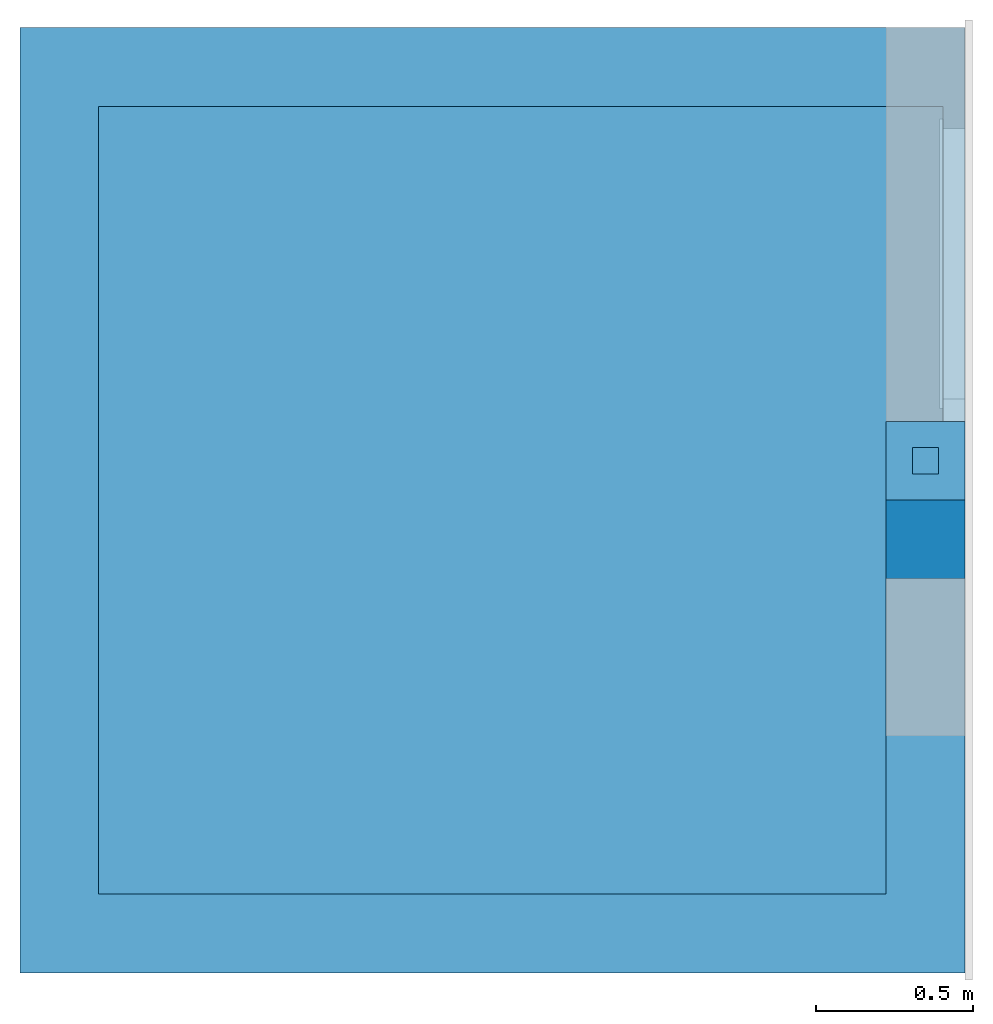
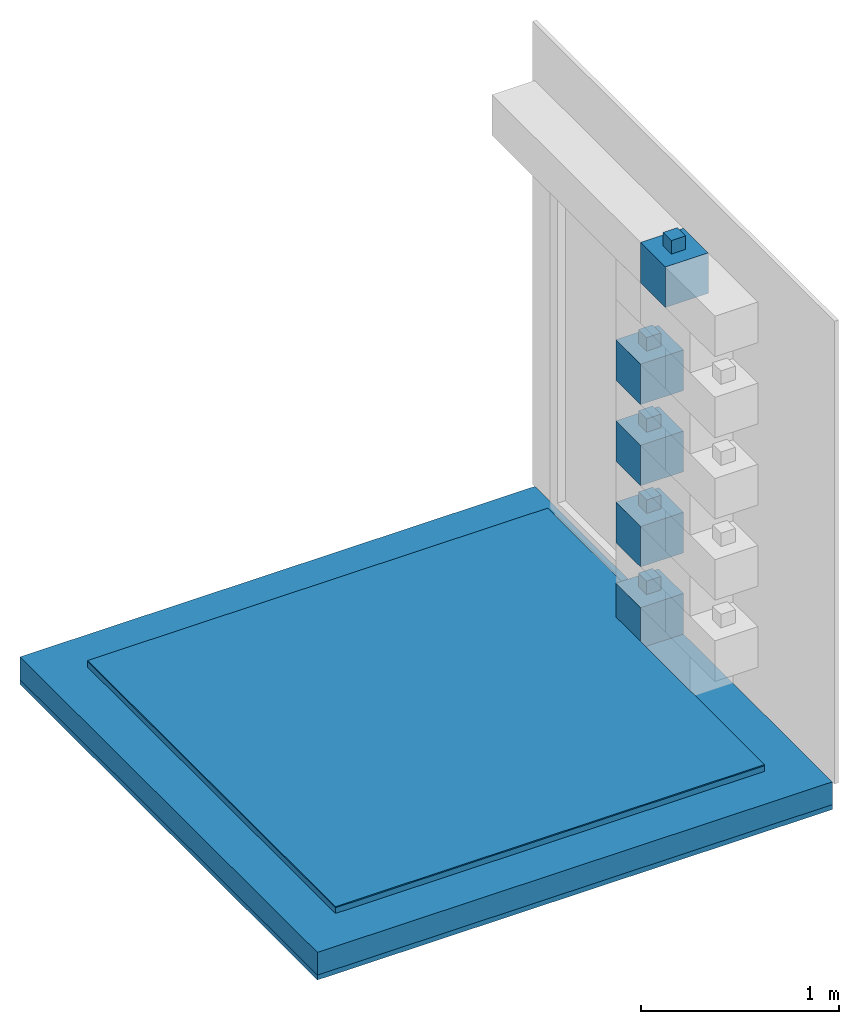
# One storey, part 5 of 8: 5 walls, 4 building element parts, 2 elements without a shape of their own.
"""IFC4 building model written with IfcOpenShell, lengths in centimetres."""

from ifc_helpers import new_model, entity, si_unit, converted_unit, direction, frame, origin, place, context, subcontext, project, spatial, indexed_curve, outline, extrude, material, type_object, element, aggregate, save


model = new_model("IFC4")

# Units and contexts
model_context = context("Model", 3, precision=0.001, world=origin(), true_north=direction((0.0, 1.0)))
body_context = subcontext(model_context, "Body", "Model", "MODEL_VIEW")
ifc_project = project(units=[si_unit("LENGTHUNIT", "METRE", prefix="CENTI"), si_unit("AREAUNIT", "SQUARE_METRE"), si_unit("VOLUMEUNIT", "CUBIC_METRE"), converted_unit("PLANEANGLEUNIT", "DEGREE", entity("IfcPlaneAngleMeasure", 0.017453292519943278), si_unit("PLANEANGLEUNIT", "RADIAN"), dimensions=[0, 0, 0, 0, 0, 0, 0])], contexts=[model_context])

# Site, building, storey
site_placement = place(None, origin())
site = spatial("IfcSite", under=ifc_project, at=site_placement, Name="Default", CompositionType="ELEMENT")
building_placement = place(site_placement, origin())
building = spatial("IfcBuilding", under=site, at=building_placement, CompositionType="ELEMENT")
storey_placement = place(building_placement, frame((0.0, 0.0, -4.0)))
storey = spatial("IfcBuildingStorey", under=building, at=storey_placement, Name="L00__ABOVE Slab", CompositionType="ELEMENT", Elevation=-4.000000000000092)

# Walls
ifc_material_1 = material(Name="Miscellaneous__Timber Block__Triqbriq, X", Category="Miscellaneous")
wall_type = type_object("IfcWallType", Name="Columns : wll_s__TIMBER BLOCK__Triqbriq, Half Width__wp : WS25", PredefinedType="SOLIDWALL", material=ifc_material_1)
wall_1_placement = place(storey_placement, frame((3156.828914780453, 2278.520030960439, 150.0)))
element("IfcWall", 1, at=wall_1_placement, inside=storey, type_object=wall_type, material=ifc_material_1, Name="Columns : wll_s__TIMBER BLOCK__Triqbriq, Half Width__wp : WS25", PredefinedType="SOLIDWALL", context=body_context, shape_type="SweptSolid", body=[
    extrude(outline(indexed_curve([(-4.166666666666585, -4.166666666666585), (4.166666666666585, -4.166666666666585), (4.166666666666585, 4.166666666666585), (-4.166666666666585, 4.166666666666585), (-4.166666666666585, -4.166666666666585)], self_intersect=False)), frame((12.500000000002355, 12.50000000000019, 16.66666666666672), z_axis=(0.0, 0.0, 1.0), x_axis=(0.0, 1.0, 0.0)), (0.0, 0.0, 1.0), 16.66666666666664),
    extrude(outline(indexed_curve([(-4.166666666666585, -4.166666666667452), (4.166666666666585, -4.166666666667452), (4.166666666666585, 4.166666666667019), (-4.166666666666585, 4.166666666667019), (-4.166666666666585, -4.166666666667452)], self_intersect=False)), frame((4.166666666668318, 20.833333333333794, 8.333333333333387), z_axis=(0.0, 0.0, 1.0), x_axis=(0.0, 1.0, 0.0)), (0.0, 0.0, 1.0), 8.333333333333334),
    extrude(outline(indexed_curve([(-4.166666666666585, -4.166666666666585), (4.166666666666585, -4.166666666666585), (4.166666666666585, 4.166666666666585), (-4.166666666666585, 4.166666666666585), (-4.166666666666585, -4.166666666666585)], self_intersect=False)), frame((20.83333333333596, 20.833333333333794, 8.333333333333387), z_axis=(0.0, 0.0, 1.0), x_axis=(0.0, 1.0, 0.0)), (0.0, 0.0, 1.0), 8.333333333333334),
    extrude(outline(indexed_curve([(-4.166666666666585, -4.166666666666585), (4.166666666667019, -4.166666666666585), (4.166666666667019, 4.166666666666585), (-4.166666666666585, 4.166666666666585), (-4.166666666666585, -4.166666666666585)], self_intersect=False)), frame((20.83333333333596, 4.166666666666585, 8.333333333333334), z_axis=(0.0, 0.0, 1.0), x_axis=(0.0, 1.0, 0.0)), (0.0, 0.0, 1.0), 8.333333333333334),
    extrude(outline(indexed_curve([(-4.166666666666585, -4.166666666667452), (4.166666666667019, -4.166666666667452), (4.166666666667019, 4.166666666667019), (-4.166666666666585, 4.166666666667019), (-4.166666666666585, -4.166666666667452)], self_intersect=False)), frame((4.166666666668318, 4.166666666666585, 8.333333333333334), z_axis=(0.0, 0.0, 1.0), x_axis=(0.0, 1.0, 0.0)), (0.0, 0.0, 1.0), 8.333333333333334),
    extrude(outline(indexed_curve([(-12.50000000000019, -4.166666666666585), (12.50000000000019, -4.166666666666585), (12.50000000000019, 4.166666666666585), (-12.50000000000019, 4.166666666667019), (-12.50000000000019, -4.166666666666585)], self_intersect=False)), frame((12.500000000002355, 12.50000000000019, 8.333333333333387), z_axis=(0.0, 0.0, 1.0), x_axis=(0.0, 1.0, 0.0)), (0.0, 0.0, 1.0), 8.333333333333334),
    extrude(outline(indexed_curve([(-4.166666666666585, -12.50000000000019), (4.166666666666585, -12.50000000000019), (4.166666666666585, 12.500000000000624), (-4.166666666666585, 12.500000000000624), (-4.166666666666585, -12.50000000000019)], self_intersect=False)), frame((12.500000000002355, 4.166666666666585, 0.0), z_axis=(0.0, 0.0, 1.0), x_axis=(0.0, 1.0, 0.0)), (0.0, 0.0, 1.0), 8.333333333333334),
    extrude(outline(indexed_curve([(-4.166666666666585, -12.50000000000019), (4.166666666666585, -12.50000000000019), (4.166666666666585, 12.500000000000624), (-4.166666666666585, 12.500000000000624), (-4.166666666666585, -12.50000000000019)], self_intersect=False)), frame((12.500000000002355, 20.83333333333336, 0.0), z_axis=(0.0, 0.0, 1.0), x_axis=(0.0, 1.0, 0.0)), (0.0, 0.0, 1.0), 8.333333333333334),
    extrude(outline(indexed_curve([(-4.166666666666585, -4.166666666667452), (4.166666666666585, -4.166666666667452), (4.166666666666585, 4.166666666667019), (-4.166666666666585, 4.166666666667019), (-4.166666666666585, -4.166666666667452)], self_intersect=False)), frame((4.166666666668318, 12.499999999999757, 0.0), z_axis=(0.0, 0.0, 1.0), x_axis=(0.0, 1.0, 0.0)), (0.0, 0.0, 1.0), 24.999999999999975),
    extrude(outline(indexed_curve([(-4.166666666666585, -4.166666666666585), (4.166666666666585, -4.166666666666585), (4.166666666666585, 4.166666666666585), (-4.166666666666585, 4.166666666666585), (-4.166666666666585, -4.166666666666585)], self_intersect=False)), frame((20.83333333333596, 12.499999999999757, 0.0), z_axis=(0.0, 0.0, 1.0), x_axis=(0.0, 1.0, 0.0)), (0.0, 0.0, 1.0), 24.999999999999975),
    extrude(outline(indexed_curve([(-4.166666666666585, -12.50000000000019), (4.166666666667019, -12.50000000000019), (4.166666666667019, 12.500000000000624), (-4.166666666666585, 12.500000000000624), (-4.166666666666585, -12.50000000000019)], self_intersect=False)), frame((12.500000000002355, 4.166666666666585, 16.66666666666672), z_axis=(0.0, 0.0, 1.0), x_axis=(0.0, 1.0, 0.0)), (0.0, 0.0, 1.0), 8.333333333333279),
    extrude(outline(indexed_curve([(-4.166666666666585, -12.50000000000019), (4.166666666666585, -12.50000000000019), (4.166666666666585, 12.500000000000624), (-4.166666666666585, 12.500000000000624), (-4.166666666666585, -12.50000000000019)], self_intersect=False)), frame((12.500000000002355, 20.833333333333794, 16.666666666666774), z_axis=(0.0, 0.0, 1.0), x_axis=(0.0, 1.0, 0.0)), (0.0, 0.0, 1.0), 8.333333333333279),
])
wall_2_placement = place(storey_placement, frame((3156.828914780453, 2278.520030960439, 100.0)))
element("IfcWall", 2, at=wall_2_placement, inside=storey, type_object=wall_type, material=ifc_material_1, Name="Columns : wll_s__TIMBER BLOCK__Triqbriq, Half Width__wp : WS25", PredefinedType="SOLIDWALL", context=body_context, shape_type="SweptSolid", body=[
    extrude(outline(indexed_curve([(-4.166666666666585, -4.166666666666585), (4.166666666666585, -4.166666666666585), (4.166666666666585, 4.166666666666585), (-4.166666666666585, 4.166666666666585), (-4.166666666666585, -4.166666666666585)], self_intersect=False)), frame((12.500000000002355, 12.50000000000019, 16.66666666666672), z_axis=(0.0, 0.0, 1.0), x_axis=(0.0, 1.0, 0.0)), (0.0, 0.0, 1.0), 16.666666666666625),
    extrude(outline(indexed_curve([(-4.166666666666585, -4.166666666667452), (4.166666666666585, -4.166666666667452), (4.166666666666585, 4.166666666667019), (-4.166666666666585, 4.166666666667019), (-4.166666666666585, -4.166666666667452)], self_intersect=False)), frame((4.166666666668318, 20.833333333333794, 8.333333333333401), z_axis=(0.0, 0.0, 1.0), x_axis=(0.0, 1.0, 0.0)), (0.0, 0.0, 1.0), 8.333333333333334),
    extrude(outline(indexed_curve([(-4.166666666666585, -4.166666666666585), (4.166666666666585, -4.166666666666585), (4.166666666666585, 4.166666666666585), (-4.166666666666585, 4.166666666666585), (-4.166666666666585, -4.166666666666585)], self_intersect=False)), frame((20.83333333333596, 20.833333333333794, 8.333333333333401), z_axis=(0.0, 0.0, 1.0), x_axis=(0.0, 1.0, 0.0)), (0.0, 0.0, 1.0), 8.333333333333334),
    extrude(outline(indexed_curve([(-4.166666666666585, -4.166666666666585), (4.166666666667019, -4.166666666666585), (4.166666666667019, 4.166666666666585), (-4.166666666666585, 4.166666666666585), (-4.166666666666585, -4.166666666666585)], self_intersect=False)), frame((20.83333333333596, 4.166666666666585, 8.333333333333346), z_axis=(0.0, 0.0, 1.0), x_axis=(0.0, 1.0, 0.0)), (0.0, 0.0, 1.0), 8.333333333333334),
    extrude(outline(indexed_curve([(-4.166666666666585, -4.166666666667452), (4.166666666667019, -4.166666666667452), (4.166666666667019, 4.166666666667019), (-4.166666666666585, 4.166666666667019), (-4.166666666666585, -4.166666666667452)], self_intersect=False)), frame((4.166666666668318, 4.166666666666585, 8.333333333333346), z_axis=(0.0, 0.0, 1.0), x_axis=(0.0, 1.0, 0.0)), (0.0, 0.0, 1.0), 8.333333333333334),
    extrude(outline(indexed_curve([(-12.50000000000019, -4.166666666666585), (12.50000000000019, -4.166666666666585), (12.50000000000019, 4.166666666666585), (-12.50000000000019, 4.166666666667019), (-12.50000000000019, -4.166666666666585)], self_intersect=False)), frame((12.500000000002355, 12.50000000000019, 8.333333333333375), z_axis=(0.0, 0.0, 1.0), x_axis=(0.0, 1.0, 0.0)), (0.0, 0.0, 1.0), 8.333333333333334),
    extrude(outline(indexed_curve([(-4.166666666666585, -12.50000000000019), (4.166666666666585, -12.50000000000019), (4.166666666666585, 12.500000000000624), (-4.166666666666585, 12.500000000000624), (-4.166666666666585, -12.50000000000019)], self_intersect=False)), frame((12.500000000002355, 4.166666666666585, 0.0), z_axis=(0.0, 0.0, 1.0), x_axis=(0.0, 1.0, 0.0)), (0.0, 0.0, 1.0), 8.333333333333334),
    extrude(outline(indexed_curve([(-4.166666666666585, -12.50000000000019), (4.166666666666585, -12.50000000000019), (4.166666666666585, 12.500000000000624), (-4.166666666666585, 12.500000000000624), (-4.166666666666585, -12.50000000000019)], self_intersect=False)), frame((12.500000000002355, 20.83333333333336, 0.0), z_axis=(0.0, 0.0, 1.0), x_axis=(0.0, 1.0, 0.0)), (0.0, 0.0, 1.0), 8.333333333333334),
    extrude(outline(indexed_curve([(-4.166666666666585, -4.166666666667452), (4.166666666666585, -4.166666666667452), (4.166666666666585, 4.166666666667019), (-4.166666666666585, 4.166666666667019), (-4.166666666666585, -4.166666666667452)], self_intersect=False)), frame((4.166666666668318, 12.499999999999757, 0.0), z_axis=(0.0, 0.0, 1.0), x_axis=(0.0, 1.0, 0.0)), (0.0, 0.0, 1.0), 24.999999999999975),
    extrude(outline(indexed_curve([(-4.166666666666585, -4.166666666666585), (4.166666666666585, -4.166666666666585), (4.166666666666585, 4.166666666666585), (-4.166666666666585, 4.166666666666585), (-4.166666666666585, -4.166666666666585)], self_intersect=False)), frame((20.83333333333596, 12.499999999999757, 0.0), z_axis=(0.0, 0.0, 1.0), x_axis=(0.0, 1.0, 0.0)), (0.0, 0.0, 1.0), 24.999999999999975),
    extrude(outline(indexed_curve([(-4.166666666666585, -12.50000000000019), (4.166666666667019, -12.50000000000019), (4.166666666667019, 12.500000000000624), (-4.166666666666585, 12.500000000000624), (-4.166666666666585, -12.50000000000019)], self_intersect=False)), frame((12.500000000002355, 4.166666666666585, 16.666666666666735), z_axis=(0.0, 0.0, 1.0), x_axis=(0.0, 1.0, 0.0)), (0.0, 0.0, 1.0), 8.333333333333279),
    extrude(outline(indexed_curve([(-4.166666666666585, -12.50000000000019), (4.166666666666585, -12.50000000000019), (4.166666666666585, 12.500000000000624), (-4.166666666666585, 12.500000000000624), (-4.166666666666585, -12.50000000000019)], self_intersect=False)), frame((12.500000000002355, 20.833333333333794, 16.66666666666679), z_axis=(0.0, 0.0, 1.0), x_axis=(0.0, 1.0, 0.0)), (0.0, 0.0, 1.0), 8.333333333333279),
])
wall_3_placement = place(storey_placement, frame((3156.8289147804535, 2278.520030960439, 50.0)))
element("IfcWall", 3, at=wall_3_placement, inside=storey, type_object=wall_type, material=ifc_material_1, Name="Columns : wll_s__TIMBER BLOCK__Triqbriq, Half Width__wp : WS25", PredefinedType="SOLIDWALL", context=body_context, shape_type="SweptSolid", body=[
    extrude(outline(indexed_curve([(-4.166666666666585, -4.166666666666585), (4.166666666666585, -4.166666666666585), (4.166666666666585, 4.166666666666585), (-4.166666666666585, 4.166666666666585), (-4.166666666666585, -4.166666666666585)], self_intersect=False)), frame((12.500000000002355, 12.50000000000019, 16.666666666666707), z_axis=(0.0, 0.0, 1.0), x_axis=(0.0, 1.0, 0.0)), (0.0, 0.0, 1.0), 16.66666666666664),
    extrude(outline(indexed_curve([(-4.166666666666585, -4.166666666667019), (4.166666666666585, -4.166666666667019), (4.166666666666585, 4.166666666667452), (-4.166666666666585, 4.166666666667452), (-4.166666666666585, -4.166666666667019)], self_intersect=False)), frame((4.1666666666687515, 20.833333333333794, 8.333333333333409), z_axis=(0.0, 0.0, 1.0), x_axis=(0.0, 1.0, 0.0)), (0.0, 0.0, 1.0), 8.333333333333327),
    extrude(outline(indexed_curve([(-4.166666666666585, -4.166666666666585), (4.166666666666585, -4.166666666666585), (4.166666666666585, 4.166666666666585), (-4.166666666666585, 4.166666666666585), (-4.166666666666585, -4.166666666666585)], self_intersect=False)), frame((20.83333333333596, 20.833333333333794, 8.333333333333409), z_axis=(0.0, 0.0, 1.0), x_axis=(0.0, 1.0, 0.0)), (0.0, 0.0, 1.0), 8.333333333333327),
    extrude(outline(indexed_curve([(-4.166666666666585, -4.166666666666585), (4.166666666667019, -4.166666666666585), (4.166666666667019, 4.166666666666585), (-4.166666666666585, 4.166666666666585), (-4.166666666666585, -4.166666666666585)], self_intersect=False)), frame((20.83333333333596, 4.166666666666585, 8.333333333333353), z_axis=(0.0, 0.0, 1.0), x_axis=(0.0, 1.0, 0.0)), (0.0, 0.0, 1.0), 8.333333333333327),
    extrude(outline(indexed_curve([(-4.166666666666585, -4.166666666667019), (4.166666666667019, -4.166666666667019), (4.166666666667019, 4.166666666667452), (-4.166666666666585, 4.166666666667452), (-4.166666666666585, -4.166666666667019)], self_intersect=False)), frame((4.1666666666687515, 4.166666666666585, 8.333333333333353), z_axis=(0.0, 0.0, 1.0), x_axis=(0.0, 1.0, 0.0)), (0.0, 0.0, 1.0), 8.333333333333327),
    extrude(outline(indexed_curve([(-12.50000000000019, -4.166666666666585), (12.50000000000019, -4.166666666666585), (12.50000000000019, 4.166666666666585), (-12.50000000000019, 4.166666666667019), (-12.50000000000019, -4.166666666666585)], self_intersect=False)), frame((12.500000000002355, 12.50000000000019, 8.333333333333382), z_axis=(0.0, 0.0, 1.0), x_axis=(0.0, 1.0, 0.0)), (0.0, 0.0, 1.0), 8.333333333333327),
    extrude(outline(indexed_curve([(-4.166666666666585, -12.50000000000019), (4.166666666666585, -12.50000000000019), (4.166666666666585, 12.500000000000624), (-4.166666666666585, 12.500000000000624), (-4.166666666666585, -12.50000000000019)], self_intersect=False)), frame((12.500000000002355, 4.166666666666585, 0.0), z_axis=(0.0, 0.0, 1.0), x_axis=(0.0, 1.0, 0.0)), (0.0, 0.0, 1.0), 8.333333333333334),
    extrude(outline(indexed_curve([(-4.166666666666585, -12.50000000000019), (4.166666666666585, -12.50000000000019), (4.166666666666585, 12.500000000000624), (-4.166666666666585, 12.500000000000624), (-4.166666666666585, -12.50000000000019)], self_intersect=False)), frame((12.500000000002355, 20.83333333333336, 0.0), z_axis=(0.0, 0.0, 1.0), x_axis=(0.0, 1.0, 0.0)), (0.0, 0.0, 1.0), 8.333333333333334),
    extrude(outline(indexed_curve([(-4.166666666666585, -4.166666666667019), (4.166666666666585, -4.166666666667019), (4.166666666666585, 4.166666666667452), (-4.166666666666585, 4.166666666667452), (-4.166666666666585, -4.166666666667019)], self_intersect=False)), frame((4.1666666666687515, 12.499999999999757, 0.0), z_axis=(0.0, 0.0, 1.0), x_axis=(0.0, 1.0, 0.0)), (0.0, 0.0, 1.0), 24.999999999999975),
    extrude(outline(indexed_curve([(-4.166666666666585, -4.166666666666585), (4.166666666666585, -4.166666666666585), (4.166666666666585, 4.166666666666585), (-4.166666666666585, 4.166666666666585), (-4.166666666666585, -4.166666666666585)], self_intersect=False)), frame((20.83333333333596, 12.499999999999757, 0.0), z_axis=(0.0, 0.0, 1.0), x_axis=(0.0, 1.0, 0.0)), (0.0, 0.0, 1.0), 24.999999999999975),
    extrude(outline(indexed_curve([(-4.166666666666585, -12.50000000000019), (4.166666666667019, -12.50000000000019), (4.166666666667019, 12.500000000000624), (-4.166666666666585, 12.500000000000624), (-4.166666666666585, -12.50000000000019)], self_intersect=False)), frame((12.500000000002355, 4.166666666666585, 16.666666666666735), z_axis=(0.0, 0.0, 1.0), x_axis=(0.0, 1.0, 0.0)), (0.0, 0.0, 1.0), 8.333333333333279),
    extrude(outline(indexed_curve([(-4.166666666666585, -12.50000000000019), (4.166666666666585, -12.50000000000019), (4.166666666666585, 12.500000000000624), (-4.166666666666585, 12.500000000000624), (-4.166666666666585, -12.50000000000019)], self_intersect=False)), frame((12.500000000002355, 20.833333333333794, 16.66666666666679), z_axis=(0.0, 0.0, 1.0), x_axis=(0.0, 1.0, 0.0)), (0.0, 0.0, 1.0), 8.333333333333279),
])
wall_4_placement = place(storey_placement, frame((3156.8289147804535, 2278.520030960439, 0.0)))
element("IfcWall", 4, at=wall_4_placement, inside=storey, type_object=wall_type, material=ifc_material_1, Name="Columns : wll_s__TIMBER BLOCK__Triqbriq, Half Width__wp : WS25", PredefinedType="SOLIDWALL", context=body_context, shape_type="SweptSolid", body=[
    extrude(outline(indexed_curve([(-4.166666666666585, -4.166666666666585), (4.166666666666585, -4.166666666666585), (4.166666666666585, 4.166666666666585), (-4.166666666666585, 4.166666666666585), (-4.166666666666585, -4.166666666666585)], self_intersect=False)), frame((12.500000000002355, 12.50000000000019, 16.666666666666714), z_axis=(0.0, 0.0, 1.0), x_axis=(0.0, 1.0, 0.0)), (0.0, 0.0, 1.0), 16.666666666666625),
    extrude(outline(indexed_curve([(-4.166666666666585, -4.166666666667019), (4.166666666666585, -4.166666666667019), (4.166666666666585, 4.166666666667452), (-4.166666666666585, 4.166666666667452), (-4.166666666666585, -4.166666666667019)], self_intersect=False)), frame((4.1666666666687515, 20.833333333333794, 8.333333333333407), z_axis=(0.0, 0.0, 1.0), x_axis=(0.0, 1.0, 0.0)), (0.0, 0.0, 1.0), 8.333333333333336),
    extrude(outline(indexed_curve([(-4.166666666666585, -4.166666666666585), (4.166666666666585, -4.166666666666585), (4.166666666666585, 4.166666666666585), (-4.166666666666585, 4.166666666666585), (-4.166666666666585, -4.166666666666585)], self_intersect=False)), frame((20.83333333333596, 20.833333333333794, 8.333333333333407), z_axis=(0.0, 0.0, 1.0), x_axis=(0.0, 1.0, 0.0)), (0.0, 0.0, 1.0), 8.333333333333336),
    extrude(outline(indexed_curve([(-4.166666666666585, -4.166666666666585), (4.166666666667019, -4.166666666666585), (4.166666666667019, 4.166666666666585), (-4.166666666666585, 4.166666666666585), (-4.166666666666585, -4.166666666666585)], self_intersect=False)), frame((20.83333333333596, 4.166666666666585, 8.333333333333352), z_axis=(0.0, 0.0, 1.0), x_axis=(0.0, 1.0, 0.0)), (0.0, 0.0, 1.0), 8.333333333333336),
    extrude(outline(indexed_curve([(-4.166666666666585, -4.166666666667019), (4.166666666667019, -4.166666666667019), (4.166666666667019, 4.166666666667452), (-4.166666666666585, 4.166666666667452), (-4.166666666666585, -4.166666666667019)], self_intersect=False)), frame((4.1666666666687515, 4.166666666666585, 8.333333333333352), z_axis=(0.0, 0.0, 1.0), x_axis=(0.0, 1.0, 0.0)), (0.0, 0.0, 1.0), 8.333333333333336),
    extrude(outline(indexed_curve([(-12.50000000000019, -4.166666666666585), (12.50000000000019, -4.166666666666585), (12.50000000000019, 4.166666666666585), (-12.50000000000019, 4.166666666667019), (-12.50000000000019, -4.166666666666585)], self_intersect=False)), frame((12.500000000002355, 12.50000000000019, 8.33333333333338), z_axis=(0.0, 0.0, 1.0), x_axis=(0.0, 1.0, 0.0)), (0.0, 0.0, 1.0), 8.333333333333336),
    extrude(outline(indexed_curve([(-4.166666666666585, -12.50000000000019), (4.166666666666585, -12.50000000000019), (4.166666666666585, 12.500000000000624), (-4.166666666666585, 12.500000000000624), (-4.166666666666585, -12.50000000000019)], self_intersect=False)), frame((12.500000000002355, 4.166666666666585, 0.0), z_axis=(0.0, 0.0, 1.0), x_axis=(0.0, 1.0, 0.0)), (0.0, 0.0, 1.0), 8.333333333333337),
    extrude(outline(indexed_curve([(-4.166666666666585, -12.50000000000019), (4.166666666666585, -12.50000000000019), (4.166666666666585, 12.500000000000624), (-4.166666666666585, 12.500000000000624), (-4.166666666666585, -12.50000000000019)], self_intersect=False)), frame((12.500000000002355, 20.83333333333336, 0.0), z_axis=(0.0, 0.0, 1.0), x_axis=(0.0, 1.0, 0.0)), (0.0, 0.0, 1.0), 8.333333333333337),
    extrude(outline(indexed_curve([(-4.166666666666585, -4.166666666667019), (4.166666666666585, -4.166666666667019), (4.166666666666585, 4.166666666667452), (-4.166666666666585, 4.166666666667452), (-4.166666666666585, -4.166666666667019)], self_intersect=False)), frame((4.1666666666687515, 12.499999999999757, 0.0), z_axis=(0.0, 0.0, 1.0), x_axis=(0.0, 1.0, 0.0)), (0.0, 0.0, 1.0), 24.99999999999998),
    extrude(outline(indexed_curve([(-4.166666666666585, -4.166666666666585), (4.166666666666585, -4.166666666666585), (4.166666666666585, 4.166666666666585), (-4.166666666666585, 4.166666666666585), (-4.166666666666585, -4.166666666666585)], self_intersect=False)), frame((20.83333333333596, 12.499999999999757, 0.0), z_axis=(0.0, 0.0, 1.0), x_axis=(0.0, 1.0, 0.0)), (0.0, 0.0, 1.0), 24.99999999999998),
    extrude(outline(indexed_curve([(-4.166666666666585, -12.50000000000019), (4.166666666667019, -12.50000000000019), (4.166666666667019, 12.500000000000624), (-4.166666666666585, 12.500000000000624), (-4.166666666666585, -12.50000000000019)], self_intersect=False)), frame((12.500000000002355, 4.166666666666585, 16.66666666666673), z_axis=(0.0, 0.0, 1.0), x_axis=(0.0, 1.0, 0.0)), (0.0, 0.0, 1.0), 8.333333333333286),
    extrude(outline(indexed_curve([(-4.166666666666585, -12.50000000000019), (4.166666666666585, -12.50000000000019), (4.166666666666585, 12.500000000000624), (-4.166666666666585, 12.500000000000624), (-4.166666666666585, -12.50000000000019)], self_intersect=False)), frame((12.500000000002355, 20.833333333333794, 16.66666666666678), z_axis=(0.0, 0.0, 1.0), x_axis=(0.0, 1.0, 0.0)), (0.0, 0.0, 1.0), 8.333333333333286),
])
wall_5_placement = place(storey_placement, frame((3156.8289147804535, 2253.5200309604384, 225.0)))
element("IfcWall", 5, at=wall_5_placement, inside=storey, type_object=wall_type, material=ifc_material_1, Name="Columns : wll_s__TIMBER BLOCK__Triqbriq, Half Width__wp : WS25", PredefinedType="SOLIDWALL", context=body_context, shape_type="SweptSolid", body=[
    extrude(outline(indexed_curve([(-4.166666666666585, -4.166666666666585), (4.166666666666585, -4.166666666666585), (4.166666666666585, 4.166666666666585), (-4.166666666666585, 4.166666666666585), (-4.166666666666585, -4.166666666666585)], self_intersect=False)), frame((12.500000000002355, 12.50000000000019, 16.666666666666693), z_axis=(0.0, 0.0, 1.0), x_axis=(0.0, 1.0, 0.0)), (0.0, 0.0, 1.0), 16.66666666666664),
    extrude(outline(indexed_curve([(-4.166666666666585, -4.166666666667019), (4.166666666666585, -4.166666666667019), (4.166666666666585, 4.166666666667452), (-4.166666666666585, 4.166666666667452), (-4.166666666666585, -4.166666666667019)], self_intersect=False)), frame((4.1666666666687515, 20.833333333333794, 8.333333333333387), z_axis=(0.0, 0.0, 1.0), x_axis=(0.0, 1.0, 0.0)), (0.0, 0.0, 1.0), 8.333333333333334),
    extrude(outline(indexed_curve([(-4.166666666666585, -4.166666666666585), (4.166666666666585, -4.166666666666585), (4.166666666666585, 4.166666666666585), (-4.166666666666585, 4.166666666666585), (-4.166666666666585, -4.166666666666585)], self_intersect=False)), frame((20.83333333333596, 20.833333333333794, 8.333333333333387), z_axis=(0.0, 0.0, 1.0), x_axis=(0.0, 1.0, 0.0)), (0.0, 0.0, 1.0), 8.333333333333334),
    extrude(outline(indexed_curve([(-4.166666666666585, -4.166666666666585), (4.166666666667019, -4.166666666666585), (4.166666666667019, 4.166666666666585), (-4.166666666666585, 4.166666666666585), (-4.166666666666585, -4.166666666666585)], self_intersect=False)), frame((20.83333333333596, 4.166666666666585, 8.333333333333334), z_axis=(0.0, 0.0, 1.0), x_axis=(0.0, 1.0, 0.0)), (0.0, 0.0, 1.0), 8.333333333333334),
    extrude(outline(indexed_curve([(-4.166666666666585, -4.166666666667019), (4.166666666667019, -4.166666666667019), (4.166666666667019, 4.166666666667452), (-4.166666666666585, 4.166666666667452), (-4.166666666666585, -4.166666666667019)], self_intersect=False)), frame((4.1666666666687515, 4.166666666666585, 8.333333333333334), z_axis=(0.0, 0.0, 1.0), x_axis=(0.0, 1.0, 0.0)), (0.0, 0.0, 1.0), 8.333333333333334),
    extrude(outline(indexed_curve([(-12.50000000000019, -4.166666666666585), (12.50000000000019, -4.166666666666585), (12.50000000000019, 4.166666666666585), (-12.50000000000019, 4.166666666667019), (-12.50000000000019, -4.166666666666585)], self_intersect=False)), frame((12.500000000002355, 12.50000000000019, 8.333333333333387), z_axis=(0.0, 0.0, 1.0), x_axis=(0.0, 1.0, 0.0)), (0.0, 0.0, 1.0), 8.333333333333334),
    extrude(outline(indexed_curve([(-4.166666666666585, -12.50000000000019), (4.166666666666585, -12.50000000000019), (4.166666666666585, 12.500000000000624), (-4.166666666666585, 12.500000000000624), (-4.166666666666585, -12.50000000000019)], self_intersect=False)), frame((12.500000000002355, 4.166666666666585, 0.0), z_axis=(0.0, 0.0, 1.0), x_axis=(0.0, 1.0, 0.0)), (0.0, 0.0, 1.0), 8.333333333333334),
    extrude(outline(indexed_curve([(-4.166666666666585, -12.50000000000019), (4.166666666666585, -12.50000000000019), (4.166666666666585, 12.500000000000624), (-4.166666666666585, 12.500000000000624), (-4.166666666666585, -12.50000000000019)], self_intersect=False)), frame((12.500000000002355, 20.83333333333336, 0.0), z_axis=(0.0, 0.0, 1.0), x_axis=(0.0, 1.0, 0.0)), (0.0, 0.0, 1.0), 8.333333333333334),
    extrude(outline(indexed_curve([(-4.166666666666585, -4.166666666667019), (4.166666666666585, -4.166666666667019), (4.166666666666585, 4.166666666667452), (-4.166666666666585, 4.166666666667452), (-4.166666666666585, -4.166666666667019)], self_intersect=False)), frame((4.1666666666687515, 12.499999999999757, 0.0), z_axis=(0.0, 0.0, 1.0), x_axis=(0.0, 1.0, 0.0)), (0.0, 0.0, 1.0), 25.0),
    extrude(outline(indexed_curve([(-4.166666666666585, -4.166666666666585), (4.166666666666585, -4.166666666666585), (4.166666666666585, 4.166666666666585), (-4.166666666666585, 4.166666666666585), (-4.166666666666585, -4.166666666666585)], self_intersect=False)), frame((20.83333333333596, 12.499999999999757, 0.0), z_axis=(0.0, 0.0, 1.0), x_axis=(0.0, 1.0, 0.0)), (0.0, 0.0, 1.0), 25.0),
    extrude(outline(indexed_curve([(-4.166666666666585, -12.50000000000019), (4.166666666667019, -12.50000000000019), (4.166666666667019, 12.500000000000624), (-4.166666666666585, 12.500000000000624), (-4.166666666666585, -12.50000000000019)], self_intersect=False)), frame((12.500000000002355, 4.166666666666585, 16.66666666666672), z_axis=(0.0, 0.0, 1.0), x_axis=(0.0, 1.0, 0.0)), (0.0, 0.0, 1.0), 8.333333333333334),
    extrude(outline(indexed_curve([(-4.166666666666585, -12.50000000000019), (4.166666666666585, -12.50000000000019), (4.166666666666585, 12.500000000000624), (-4.166666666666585, 12.500000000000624), (-4.166666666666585, -12.50000000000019)], self_intersect=False)), frame((12.500000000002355, 20.833333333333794, 16.666666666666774), z_axis=(0.0, 0.0, 1.0), x_axis=(0.0, 1.0, 0.0)), (0.0, 0.0, 1.0), 8.333333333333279),
])

# Slab, building element parts
slab_type_1 = type_object("IfcSlabType", Name="Floors : Floor : flr__WP & INSULATION__Foam Glass 17cm__Under Bsmt Slab, TriqBriq 2", PredefinedType="FLOOR")
slab_1_placement = place(storey_placement, origin())
slab_1 = element("IfcSlab", 6, at=slab_1_placement, inside=storey, type_object=slab_type_1, Name="Floors : Floor : flr__WP & INSULATION__Foam Glass 17cm__Under Bsmt Slab, TriqBriq 2", PredefinedType="FLOOR")
ifc_material_2 = material(Name="_FND LAYERS__Insulation__Foam Glass__Glapor PG UMB1", Category="Unassigned")
building_element_part_1_placement = place(slab_1_placement, origin())
building_element_part_1 = element("IfcBuildingElementPart", 7, at=building_element_part_1_placement, material=ifc_material_2, Name="_FND LAYERS__Insulation__Foam Glass__Glapor PG UMB1", context=body_context, shape_type="SweptSolid", body=[
    extrude(outline(indexed_curve([(-150.10000000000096, -149.9999999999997), (150.1000000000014, -149.9999999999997), (150.1000000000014, 149.9999999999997), (-150.10000000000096, 149.9999999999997), (-150.10000000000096, -149.9999999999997)], self_intersect=False)), frame((3031.8289147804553, 2278.420030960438, -14.0), z_axis=(0.0, 0.0, 1.0), x_axis=(0.0, -1.0, 0.0)), (0.0, 0.0, 1.0), 13.999999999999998),
])
ifc_material_3 = material(Name="_FND LAYERS__Capillary Break Course__Crushed Gravel Layer 16/32", Category="Soil")
building_element_part_2_placement = place(slab_1_placement, origin())
building_element_part_2 = element("IfcBuildingElementPart", 8, at=building_element_part_2_placement, material=ifc_material_3, Name="_FND LAYERS__Capillary Break Course__Crushed Gravel Layer 16/32", context=body_context, shape_type="SweptSolid", body=[
    extrude(outline(indexed_curve([(-150.10000000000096, -149.9999999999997), (150.1000000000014, -149.9999999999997), (150.1000000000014, 149.9999999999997), (-150.10000000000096, 149.9999999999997), (-150.10000000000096, -149.9999999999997)], self_intersect=False)), frame((3031.8289147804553, 2278.420030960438, -17.0), z_axis=(0.0, 0.0, 1.0), x_axis=(0.0, -1.0, 0.0)), (0.0, 0.0, 1.0), 3.0000000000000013),
])
aggregate(slab_1, [building_element_part_1, building_element_part_2])

slab_type_2 = type_object("IfcSlabType", Name="Floors : Floor : flr__INT COVERING__Vinyl Tiles 4.2cm__TriqBriq 2", PredefinedType="FLOOR")
slab_2_placement = place(storey_placement, origin())
slab_2 = element("IfcSlab", 9, at=slab_2_placement, inside=storey, type_object=slab_type_2, Name="Floors : Floor : flr__INT COVERING__Vinyl Tiles 4.2cm__TriqBriq 2", PredefinedType="FLOOR")
ifc_material_4 = material(Name="_FLR COVERING__Vinyl Tiles", Category="Unassigned")
building_element_part_3_placement = place(slab_2_placement, origin())
building_element_part_3 = element("IfcBuildingElementPart", 10, at=building_element_part_3_placement, material=ifc_material_4, Name="_FLR COVERING__Vinyl Tiles", context=body_context, shape_type="SweptSolid", body=[
    extrude(outline(indexed_curve([(-116.69999999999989, -172.70000000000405), (133.39999999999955, -172.70000000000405), (133.39999999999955, 77.30000000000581), (-16.69999999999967, 77.30000000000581), (-16.69999999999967, 95.39999999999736), (-116.69999999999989, 95.3999999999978), (-116.69999999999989, -172.70000000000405)], self_intersect=False)), frame((3079.5289147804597, 2286.820030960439, 3.4999999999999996), z_axis=(0.0, 0.0, 1.0), x_axis=(0.0, -1.0, 0.0)), (0.0, 0.0, 1.0), 0.7),
])
ifc_material_5 = material(Name="_FLR LAYERS__Screed__Dry, with Insulation__Fermacell HF", Category="Unassigned")
building_element_part_4_placement = place(slab_2_placement, origin())
building_element_part_4 = element("IfcBuildingElementPart", 11, at=building_element_part_4_placement, material=ifc_material_5, Name="_FLR LAYERS__Screed__Dry, with Insulation__Fermacell HF", context=body_context, shape_type="SweptSolid", body=[
    extrude(outline(indexed_curve([(-116.69999999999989, -172.70000000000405), (133.39999999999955, -172.70000000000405), (133.39999999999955, 77.30000000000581), (-16.69999999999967, 77.30000000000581), (-16.69999999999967, 95.39999999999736), (-116.69999999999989, 95.3999999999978), (-116.69999999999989, -172.70000000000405)], self_intersect=False)), frame((3079.5289147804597, 2286.820030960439, 0.0), z_axis=(0.0, 0.0, 1.0), x_axis=(0.0, -1.0, 0.0)), (0.0, 0.0, 1.0), 3.5000000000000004),
])
aggregate(slab_2, [building_element_part_3, building_element_part_4])

save(model, "model.ifc")
